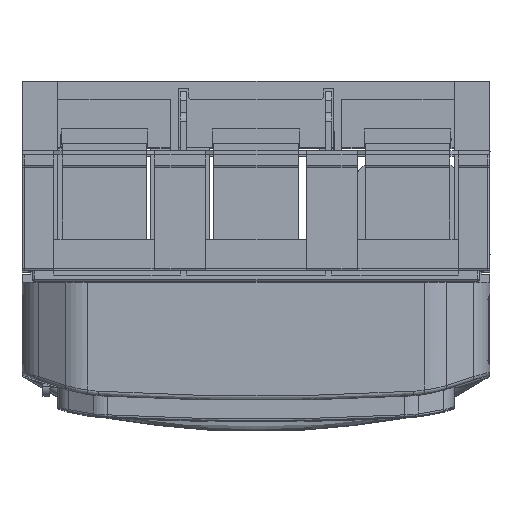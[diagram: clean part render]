
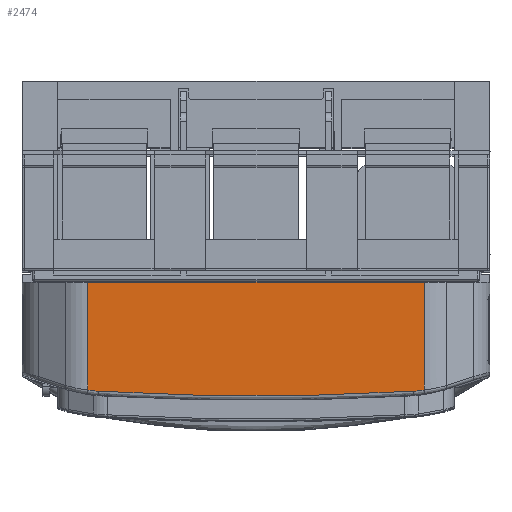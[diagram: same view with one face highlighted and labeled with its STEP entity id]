
A CAD part, top view. The second image highlights one B-rep face of the part: STEP entity #2474.
In plain terms, the highlighted planar face has unit normal (0, 0.001, 1).
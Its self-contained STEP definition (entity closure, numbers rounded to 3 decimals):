
#2474=ADVANCED_FACE('',(#4123),#38931,.T.);
#4123=FACE_OUTER_BOUND('',#5877,.T.);
#5877=EDGE_LOOP('',(#16386,#16387,#16388,#16389,#16390,#16391));
#16386=ORIENTED_EDGE('',*,*,#23744,.F.);
#16387=ORIENTED_EDGE('',*,*,#23426,.T.);
#16388=ORIENTED_EDGE('',*,*,#23428,.T.);
#16389=ORIENTED_EDGE('',*,*,#23431,.T.);
#16390=ORIENTED_EDGE('',*,*,#23747,.F.);
#16391=ORIENTED_EDGE('',*,*,#23746,.F.);
#23426=EDGE_CURVE('',#37262,#37263,#25068,.T.);
#23428=EDGE_CURVE('',#37263,#37264,#25070,.T.);
#23431=EDGE_CURVE('',#37264,#37266,#25073,.T.);
#23744=EDGE_CURVE('',#37262,#37441,#32104,.T.);
#23746=EDGE_CURVE('',#37441,#37442,#32105,.T.);
#23747=EDGE_CURVE('',#37442,#37266,#32106,.T.);
#25068=TRIMMED_CURVE($,#26155,(#74853),(#74854),.T.,.CARTESIAN.);
#25070=TRIMMED_CURVE($,#26157,(#74859),(#74860),.T.,.CARTESIAN.);
#25073=TRIMMED_CURVE($,#26160,(#74868),(#74869),.T.,.CARTESIAN.);
#26155=CIRCLE('',#41351,29.);
#26157=CIRCLE('',#41353,622.603);
#26160=CIRCLE('',#41356,29.);
#32104=B_SPLINE_CURVE_WITH_KNOTS('',1,(#76522,#76523),.UNSPECIFIED.,.F.,
 .F.,(2,2),(0.,25.601),.UNSPECIFIED.);
#32105=B_SPLINE_CURVE_WITH_KNOTS('',1,(#76527,#76528),.UNSPECIFIED.,.F.,
 .F.,(2,2),(0.,79.894),.UNSPECIFIED.);
#32106=B_SPLINE_CURVE_WITH_KNOTS('',1,(#76529,#76530),.UNSPECIFIED.,.F.,
 .F.,(2,2),(0.,25.601),.UNSPECIFIED.);
#37262=VERTEX_POINT('',#72938);
#37263=VERTEX_POINT('',#72939);
#37264=VERTEX_POINT('',#72940);
#37266=VERTEX_POINT('',#72942);
#37441=VERTEX_POINT('',#73117);
#37442=VERTEX_POINT('',#73118);
#38931=PLANE('',#41228);
#41228=AXIS2_PLACEMENT_3D('',#72615,#44542,$);
#41351=AXIS2_PLACEMENT_3D($,#74852,#44761,#44762);
#41353=AXIS2_PLACEMENT_3D($,#74858,#44765,#44766);
#41356=AXIS2_PLACEMENT_3D($,#74867,#44771,#44772);
#44542=DIRECTION('',(0.,0.001,1.));
#44761=DIRECTION('',(0.,0.001,1.));
#44762=DIRECTION('',(-0.151,-0.989,0.001));
#44765=DIRECTION('',(0.,0.001,1.));
#44766=DIRECTION('',(-0.06,-0.998,0.001));
#44771=DIRECTION('',(0.,0.001,1.));
#44772=DIRECTION('',(0.06,-0.998,0.001));
#72615=CARTESIAN_POINT('',(39.947,-74.621,61.042));
#72938=CARTESIAN_POINT('',(-39.947,-73.222,61.041));
#72939=CARTESIAN_POINT('',(-37.302,-73.503,61.041));
#72940=CARTESIAN_POINT('',(37.302,-73.503,61.041));
#72942=CARTESIAN_POINT('',(39.947,-73.222,61.041));
#73117=CARTESIAN_POINT('',(-39.947,-47.621,61.015));
#73118=CARTESIAN_POINT('',(39.947,-47.621,61.015));
#74852=CARTESIAN_POINT('',(-35.564,-44.555,61.011));
#74853=CARTESIAN_POINT('',(-39.947,-73.222,61.041));
#74854=CARTESIAN_POINT('',(-37.302,-73.503,61.041));
#74858=CARTESIAN_POINT('',(0.,547.981,60.4));
#74859=CARTESIAN_POINT('',(-37.302,-73.503,61.041));
#74860=CARTESIAN_POINT('',(37.302,-73.503,61.041));
#74867=CARTESIAN_POINT('',(35.564,-44.555,61.011));
#74868=CARTESIAN_POINT('',(37.302,-73.503,61.041));
#74869=CARTESIAN_POINT('',(39.947,-73.222,61.041));
#76522=CARTESIAN_POINT('',(-39.947,-73.222,61.041));
#76523=CARTESIAN_POINT('',(-39.947,-47.621,61.015));
#76527=CARTESIAN_POINT('',(-39.947,-47.621,61.015));
#76528=CARTESIAN_POINT('',(39.947,-47.621,61.015));
#76529=CARTESIAN_POINT('',(39.947,-47.621,61.015));
#76530=CARTESIAN_POINT('',(39.947,-73.222,61.041));
